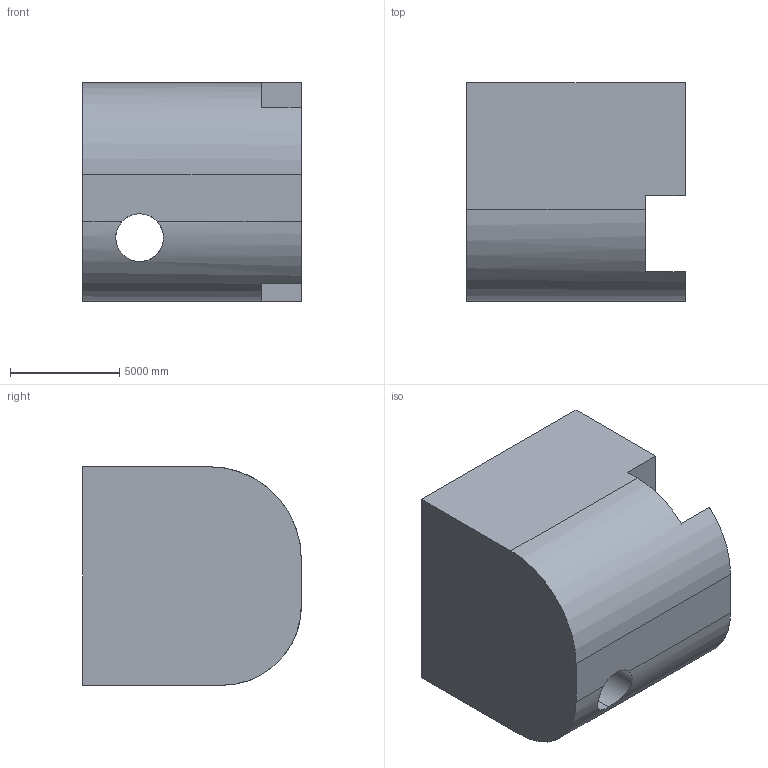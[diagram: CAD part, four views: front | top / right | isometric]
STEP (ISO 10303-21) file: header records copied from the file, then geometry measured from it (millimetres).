
FILE_DESCRIPTION (( 'STEP AP203' ), '1' );
FILE_NAME ('306.STEP', '2022-07-28T14:16:47', ( 'user' ), ( '' ), 'SwSTEP 2.0', 'SolidWorks 2021', '' );
FILE_SCHEMA (( 'CONFIG_CONTROL_DESIGN' ));
Length unit declared in the file: centimetre
Products named in the file (1): 306
Bounding box: 10000 x 10000 x 10000 mm (x, y, z)
Volume: 835804353155.1 mm3; surface area: 632511485.8 mm2
Topology: 1 solids, 1 shells, 14 faces, 39 edges, 26 vertices
Faces by surface type: plane 10, cylinder 4
Entity records: 727 total; most frequent: CARTESIAN_POINT 277, ORIENTED_EDGE 78, DIRECTION 77, EDGE_CURVE 39, VECTOR 27, LINE 27, VERTEX_POINT 26, AXIS2_PLACEMENT_3D 25
